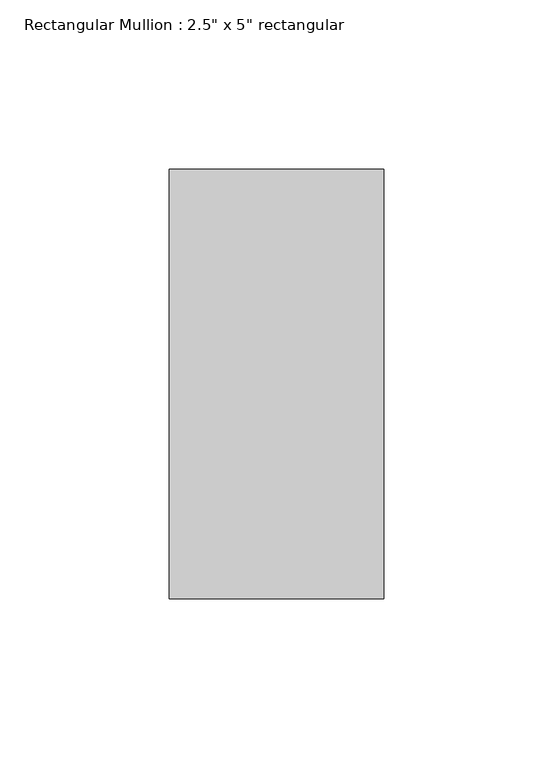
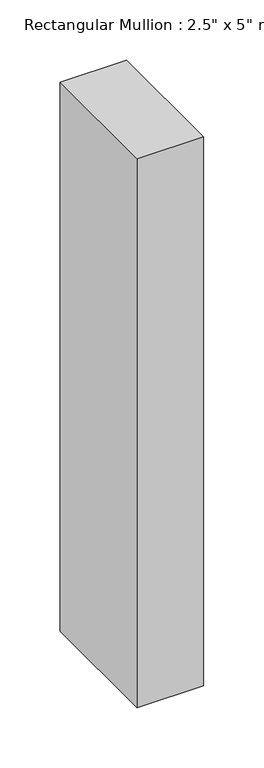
"""IFC4 building model written with IfcOpenShell, lengths in millimetres: member geometry."""

import ifcopenshell
import ifcopenshell.guid

model = None  # the IFC model being written
_history = None  # IfcOwnerHistory: only IFC2X3 demands one
_inside = {}  # id of a spatial element -> (the spatial element, [elements in it])
_under = {}  # id of a project, library or spatial element -> (it, [spatial elements below it])
_declared = {}  # id of a project -> (the project, [libraries it declares])
_typed = {}  # id of a type object -> (the type object, [elements of that type])
_made_of = {}  # id of a material, layer set ... -> (it, [elements and type objects made of it])


def new_model(schema):
    """Start an empty IFC model of exactly this schema.

    Asked for "IFC4X3", IfcOpenShell would pick the latest addendum, in which some entities
    have other attributes; the version numbers below select the first issue.
    IFC2X3 requires an IfcOwnerHistory on every rooted entity: one is made here for all.
    """
    global model, _history
    if schema == "IFC4X3":
        model = ifcopenshell.file(schema_version=(4, 3, 0, 0))
    else:
        model = ifcopenshell.file(schema=schema)
    _inside.clear()
    _under.clear()
    _declared.clear()
    _typed.clear()
    _made_of.clear()
    _history = None
    if model.schema == "IFC2X3":
        org = make("IfcOrganization", Name="unknown")
        user = make(
            "IfcPersonAndOrganization",
            ThePerson=make("IfcPerson", FamilyName="unknown"),
            TheOrganization=org,
        )
        app = make(
            "IfcApplication",
            ApplicationDeveloper=org,
            Version="unknown",
            ApplicationFullName="unknown",
            ApplicationIdentifier="unknown",
        )
        _history = make(
            "IfcOwnerHistory",
            OwningUser=user,
            OwningApplication=app,
            ChangeAction="ADDED",
            CreationDate=0,
        )
    return model


def make(cls, **values):
    """One entity of the class cls with the attributes given. An attribute that is None is left unset."""
    return model.create_entity(
        cls, **{name: value for name, value in values.items() if value is not None}
    )


def rooted(cls, **values):
    """An entity with a GlobalId (a new one), such as an element, a storey or a relation."""
    return make(cls, GlobalId=ifcopenshell.guid.new(), OwnerHistory=_history, **values)


def si_unit(unit_type, name, prefix=None):
    """IfcSIUnit, for example si_unit("LENGTHUNIT", "METRE", prefix="MILLI")."""
    return make("IfcSIUnit", UnitType=unit_type, Prefix=prefix, Name=name)


def assignment(units):
    """IfcUnitAssignment: the units of a project."""
    return None if units is None else make("IfcUnitAssignment", Units=units)


def point(xyz):
    """IfcCartesianPoint."""
    return None if xyz is None else make("IfcCartesianPoint", Coordinates=xyz)


def direction(xyz):
    """IfcDirection."""
    return None if xyz is None else make("IfcDirection", DirectionRatios=xyz)


def frame(location, z_axis=None, x_axis=None):
    """IfcAxis2Placement3D, a coordinate frame: its origin and axes. An axis left out is left unset."""
    return make(
        "IfcAxis2Placement3D",
        Location=point(location),
        Axis=direction(z_axis),
        RefDirection=direction(x_axis),
    )


def origin():
    """The frame at (0, 0, 0) with its axes left unset."""
    return frame((0.0, 0.0, 0.0))


def place(relative_to, where):
    """IfcLocalPlacement: puts the frame where relative to a parent placement (None: the world)."""
    return make(
        "IfcLocalPlacement", PlacementRelTo=relative_to, RelativePlacement=where
    )


def context(
    kind, dimensions, precision=None, world=None, true_north=None, identifier=None
):
    """IfcGeometricRepresentationContext, for example the 3D "Model" context."""
    return make(
        "IfcGeometricRepresentationContext",
        ContextIdentifier=identifier,
        ContextType=kind,
        CoordinateSpaceDimension=dimensions,
        Precision=precision,
        WorldCoordinateSystem=world,
        TrueNorth=true_north,
    )


def project(units=None, contexts=None):
    """IfcProject with its units and contexts."""
    return rooted(
        "IfcProject",
        Name="project",
        RepresentationContexts=contexts,
        UnitsInContext=assignment(units),
    )


def spatial(cls, under=None, at=None, **own):
    """A site, building, storey or space (cls), placed at a placement, below another one or the project."""
    s = rooted(cls, ObjectPlacement=at, **own)
    if under is not None:
        _under.setdefault(under.id(), (under, []))[1].append(s)
    return s


def polyline(points):
    """IfcPolyline through the points."""
    return make("IfcPolyline", Points=[point(p) for p in points])


def outline(outer, holes=None, kind="AREA"):
    """IfcArbitraryClosedProfileDef: a profile drawn as a closed curve; with holes, ...WithVoids."""
    if holes is None:
        return make("IfcArbitraryClosedProfileDef", ProfileType=kind, OuterCurve=outer)
    return make(
        "IfcArbitraryProfileDefWithVoids",
        ProfileType=kind,
        OuterCurve=outer,
        InnerCurves=holes,
    )


def extrude(swept, where, along, depth):
    """IfcExtrudedAreaSolid: the profile swept, set in the frame where, extruded along a direction by depth."""
    return make(
        "IfcExtrudedAreaSolid",
        SweptArea=swept,
        Position=where,
        ExtrudedDirection=direction(along),
        Depth=depth,
    )


def shape(context_of_items, identifier, shape_type, items):
    """IfcShapeRepresentation: the items that make up one representation, for example the "Body"."""
    return make(
        "IfcShapeRepresentation",
        ContextOfItems=context_of_items,
        RepresentationIdentifier=identifier,
        RepresentationType=shape_type,
        Items=items,
    )


def source(mapping_origin, context_of_items, identifier, shape_type, items):
    """IfcRepresentationMap: a shape defined once, which mapped items show again and again."""
    return make(
        "IfcRepresentationMap",
        MappingOrigin=mapping_origin,
        MappedRepresentation=shape(context_of_items, identifier, shape_type, items),
    )


def transform(
    local_origin,
    x_axis=None,
    y_axis=None,
    z_axis=None,
    scale=None,
    scale2=None,
    scale3=None,
    uniform=True,
):
    """IfcCartesianTransformationOperator3D, or its non-uniform kind. x_axis, y_axis, z_axis: its Axis1, 2, 3."""
    if uniform:
        return make(
            "IfcCartesianTransformationOperator3D",
            Axis1=direction(x_axis),
            Axis2=direction(y_axis),
            LocalOrigin=point(local_origin),
            Scale=scale,
            Axis3=direction(z_axis),
        )
    return make(
        "IfcCartesianTransformationOperator3DnonUniform",
        Axis1=direction(x_axis),
        Axis2=direction(y_axis),
        LocalOrigin=point(local_origin),
        Scale=scale,
        Axis3=direction(z_axis),
        Scale2=scale2,
        Scale3=scale3,
    )


def mapped(mapping_source, mapping_target):
    """IfcMappedItem: shows the shape of a source again, moved by a transform."""
    return make(
        "IfcMappedItem", MappingSource=mapping_source, MappingTarget=mapping_target
    )


def made_of(thing, what):
    """Note that an element or type object is made of a material, layer set ...; save() writes the relation."""
    if what is not None:
        _made_of.setdefault(what.id(), (what, []))[1].append(thing)
    return thing


def element(
    cls,
    number,
    at=None,
    inside=None,
    cuts=None,
    type_object=None,
    material=None,
    context=None,
    identifier="Body",
    shape_type=None,
    held_by="IfcProductDefinitionShape",
    body=None,
    shapes=None,
    **own,
):
    """One element of the class cls, such as IfcWall. Its Tag is "e" and its number.

    at: its placement. inside: the storey or other place that contains it. cuts: it is an
    opening in that element (IfcRelVoidsElement). A single representation is given by context,
    identifier, shape_type and body (its items); several are given by shapes. held_by: the class
    of the entity that holds the representations. save() writes the other relations.
    """
    e = rooted(cls, Tag="e%d" % number, ObjectPlacement=at, **own)
    if body is not None:
        shapes = [shape(context, identifier, shape_type, body)]
    if shapes is not None:
        e.Representation = make(held_by, Representations=shapes)
    if inside is not None:
        _inside.setdefault(inside.id(), (inside, []))[1].append(e)
    if cuts is not None:
        rooted(
            "IfcRelVoidsElement", RelatingBuildingElement=cuts, RelatedOpeningElement=e
        )
    if type_object is not None:
        _typed.setdefault(type_object.id(), (type_object, []))[1].append(e)
    return made_of(e, material)


def aggregate(whole, parts):
    """IfcRelAggregates: a whole, such as a stair, and the parts it consists of."""
    return rooted("IfcRelAggregates", RelatingObject=whole, RelatedObjects=parts)


def save(model, path):
    """Write the relations noted so far, then the file.

    IfcRelAggregates (storeys below a building ...), IfcRelContainedInSpatialStructure (elements
    in a storey), IfcRelDefinesByType, IfcRelAssociatesMaterial and IfcRelDeclares: one each for
    every whole, place, type object, material and project.
    """
    for whole, parts in _under.values():
        aggregate(whole, parts)
    for where, things in _inside.values():
        rooted(
            "IfcRelContainedInSpatialStructure",
            RelatedElements=things,
            RelatingStructure=where,
        )
    for kind, things in _typed.values():
        rooted("IfcRelDefinesByType", RelatedObjects=things, RelatingType=kind)
    for what, things in _made_of.values():
        rooted("IfcRelAssociatesMaterial", RelatedObjects=things, RelatingMaterial=what)
    for by, libraries in _declared.values():
        rooted("IfcRelDeclares", RelatingContext=by, RelatedDefinitions=libraries)
    model.write(path)


def member_d50c8e34(model_context):
    return source(origin(), model_context, "Body", "SweptSolid", [
        extrude(outline(polyline([(31.75, 63.5), (31.75, -63.5), (-31.75, -63.5), (-31.75, 63.5), (31.75, 63.5)])), frame((0.0, 0.0, -553.8825703), z_axis=(0.0, 0.0, 1.0), x_axis=(1.0, 0.0, 0.0)), (0.0, 0.0, 1.0), 553.8825703),
    ])


if __name__ == "__main__":
    model = new_model("IFC4")
    model_context = context("Model", 3, world=origin())
    ifc_project = project(units=[si_unit("LENGTHUNIT", "METRE", prefix="MILLI")], contexts=[model_context])
    site = spatial("IfcSite", under=ifc_project)
    building = spatial("IfcBuilding", under=site)
    placement = place(None, origin())
    member_shape = member_d50c8e34(model_context)
    element("IfcMember", 1, ObjectType="Rectangular Mullion : 2.5\" x 5\" rectangular", at=placement, inside=building, context=model_context, shape_type="MappedRepresentation", body=[
        mapped(member_shape, transform((0.0, 0.0, 0.0), x_axis=(1.0, 0.0, 0.0), y_axis=(0.0, 1.0, 0.0), z_axis=(0.0, 0.0, 1.0))),
    ])
    save(model, "model.ifc")
